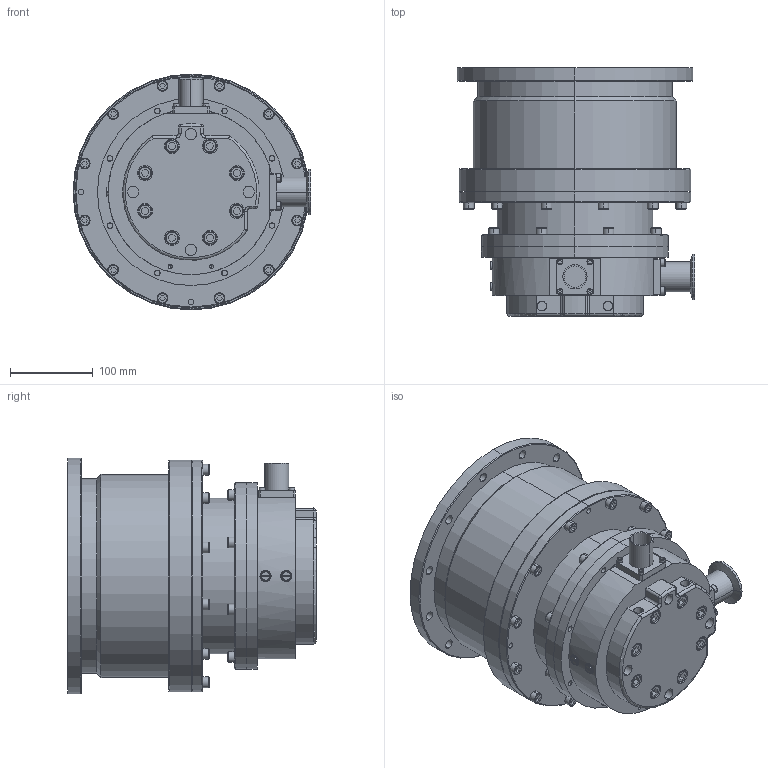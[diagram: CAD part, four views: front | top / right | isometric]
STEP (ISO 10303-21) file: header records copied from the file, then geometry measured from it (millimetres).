
FILE_DESCRIPTION(('Creo Elements/Direct Modeling STEP Export'),'2;1');
FILE_NAME('TG1400FBWBdel.stp','2018-03-13T14:26:33',(''),(''),'Creo Elements/Direct Modeling STEP processor for AP214 (Solid Model)','Creo Elements/Direct Modeling 18.1E 22-Nov-2013 (C) Parametric Technology GmbH','');
FILE_SCHEMA(('AUTOMOTIVE_DESIGN { 1 0 10303 214 1 1 1 1 }'));
Length unit declared in the file: millimetre
Products named in the file (14): M8.PRT; TG1100F_X____.PRT; TG1100F_N_E.PRT; G_P__4.PRT; M10.PRT; TG1100F_R.PRT; M6.PRT; TG2400_R_L.PRT; M4.PRT; TG1400FSGP_X_E.PRT; TG1400F_N_E.ASM; TG1400F_P___V.PRT; ASSEM1.ASM; TG1400FBWB.stp
Assembly tree (46 placements, depth 4):
  TG1400FBWB.stp
    ASSEM1.ASM
      TG1400F_P___V.PRT
      TG1400F_N_E.ASM
        TG1400FSGP_X_E.PRT
        M8.PRT  x8
        M4.PRT  x4
        TG2400_R_L.PRT
        M6.PRT  x4
        TG1100F_R.PRT
        M10.PRT  x8
        G_P__4.PRT  x2
        TG1100F_N_E.PRT
        TG1100F_X____.PRT
      M8.PRT  x12
Bounding box: 287.5 x 300 x 285 mm (x, y, z)
Volume: 12204870.5 mm3; surface area: 744908.4 mm2
Topology: 44 solids, 44 shells, 1092 faces, 2481 edges, 1545 vertices
Faces by surface type: plane 440, cylinder 422, cone 220, torus 6, sphere 4
Entity records: 18100 total; most frequent: ORIENTED_EDGE 2346, DIRECTION 2304, CARTESIAN_POINT 2259, EDGE_CURVE 1173, AXIS2_PLACEMENT_3D 884, VERTEX_POINT 757, EDGE_LOOP 700, VECTOR 536
